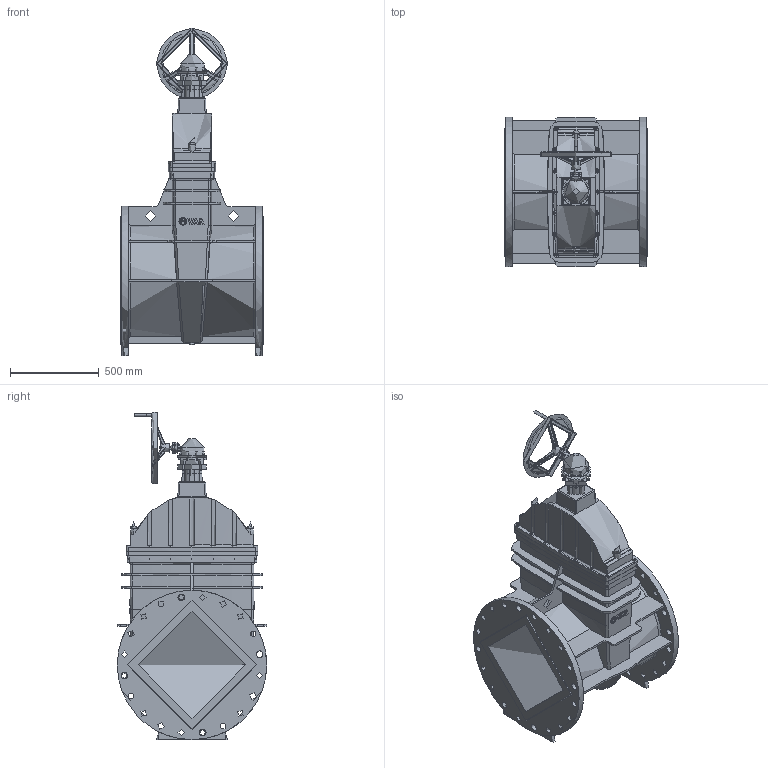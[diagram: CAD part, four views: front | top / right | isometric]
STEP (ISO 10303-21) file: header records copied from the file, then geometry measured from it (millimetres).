
FILE_DESCRIPTION(('STEP AP242'), '1');
FILE_NAME('青溻桄赅', '', ('UNSPECIFIED'), ('UNSPECIFIED'), 'C3D Converter', 'C3D Toolkit', '');
FILE_SCHEMA(('AP242_MANAGED_MODEL_BASED_3D_ENGINEERING_MIM_LF { 1 0 10303 442 1 1 4 }'));
Length unit declared in the file: millimetre
Assembly tree (40 placements, depth 2):
  (unnamed)
    (unnamed)
    (unnamed)
    (unnamed)
    (unnamed)  x2
    (unnamed)
    (unnamed)
    (unnamed)
    (unnamed)
    (unnamed)
    (unnamed)  x15
    (unnamed)  x4
    (unnamed)  x8
    (unnamed)
    (unnamed)  x2
Bounding box: 800 x 840 x 1840 mm (x, y, z)
Topology: 47 solids, 47 shells, 1844 faces, 4462 edges, 2816 vertices
Faces by surface type: plane 870, cylinder 478, extrusion 175, cone 168, bspline 87, torus 66
Full cylindrical faces by diameter (mm): 3 x8, 4 x32, 6 x7, 7 x8, 8 x12, 10 x15, 12 x65, 13 x4, 16 x4, 18 x33, 20 x5, 29 x1, 35 x9, 37 x40, 40 x1, 42.768 x1, 50 x1, 59 x5, 60 x4, 116.402 x2, 137.765 x1, 159.128 x3, 340 x1, 350 x1, 390 x1, 400 x1, 564 x2, 600 x4, 643.2 x4, 672 x1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
Entity records: 73462 total; most frequent: CARTESIAN_POINT 40267, ORIENTED_EDGE 5928, DIRECTION 5454, EDGE_CURVE 2964, VERTEX_POINT 2073, AXIS2_PLACEMENT_3D 2046, EDGE_LOOP 1836, FACE_BOUND 1369
